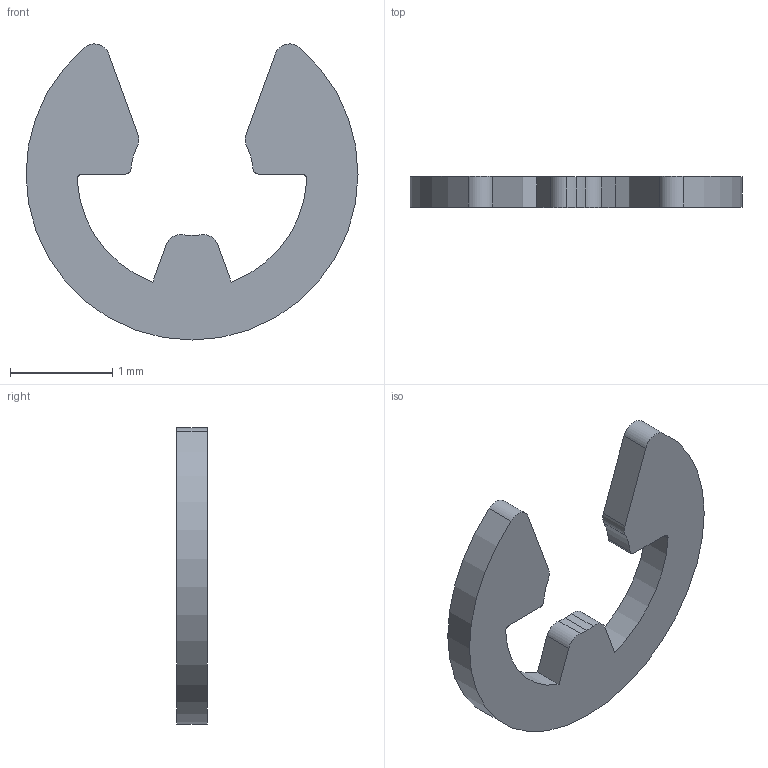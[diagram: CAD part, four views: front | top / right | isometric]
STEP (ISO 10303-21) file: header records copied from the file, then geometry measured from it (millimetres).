
FILE_DESCRIPTION (( 'STEP AP203' ), '1' );
FILE_NAME ('Default.step', '2019-07-25T20:58:54', ( '' ), ( '' ), 'SwSTEP 2.0', 'SolidWorks 2017', '' );
FILE_SCHEMA (( 'CONFIG_CONTROL_DESIGN' ));
Length unit declared in the file: millimetre
Products named in the file (1): Default
Bounding box: 3.25 x 0.3 x 2.9 mm (x, y, z)
Volume: 1.3 mm3; surface area: 13.8 mm2
Topology: 1 solids, 1 shells, 26 faces, 72 edges, 48 vertices
Faces by surface type: cylinder 18, plane 8
Entity records: 929 total; most frequent: DIRECTION 162, CARTESIAN_POINT 147, ORIENTED_EDGE 144, EDGE_CURVE 72, AXIS2_PLACEMENT_3D 63, VERTEX_POINT 48, LINE 36, CIRCLE 36
